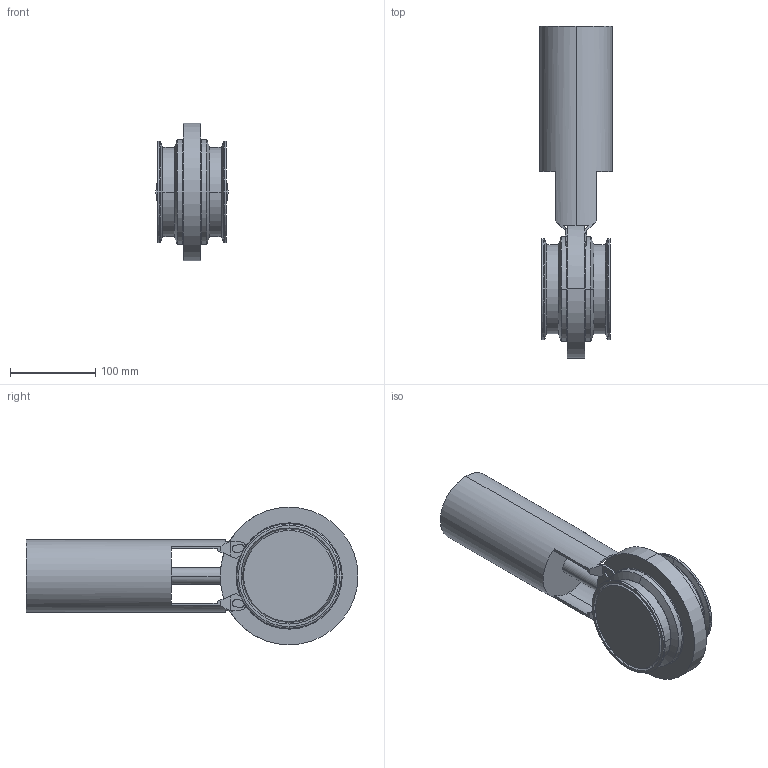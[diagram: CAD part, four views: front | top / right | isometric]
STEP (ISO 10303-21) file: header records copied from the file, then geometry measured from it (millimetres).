
FILE_DESCRIPTION(('OneSpaceDesigner STEP Export'),'2;1');
FILE_NAME('SV1-4T-FZ-12CL.stp','2011-06-06T11:03:41',(''),(''),'OneSpace Designer STEP processor for AP214 (Solid Model)','OneSpace Modeling 15.00B 25-Jun-2007 (C) CoCreate Software GmbH','');
FILE_SCHEMA(('AUTOMOTIVE_DESIGN { 1 0 10303 214 1 1 1 1 }'));
Length unit declared in the file: millimetre
Products named in the file (2): SV1-4zoll-FZ-12CL
Assembly tree (1 placements, depth 2):
  SV1-4zoll-FZ-12CL
    SV1-4zoll-FZ-12CL
Bounding box: 85 x 390.29 x 162 mm (x, y, z)
Volume: 1976204.7 mm3; surface area: 176087 mm2
Topology: 1 solids, 2 shells, 164 faces, 452 edges, 286 vertices
Faces by surface type: plane 67, cylinder 53, torus 24, cone 20
Entity records: 6258 total; most frequent: CARTESIAN_POINT 2543, ORIENTED_EDGE 904, DIRECTION 650, EDGE_CURVE 452, VERTEX_POINT 286, AXIS2_PLACEMENT_3D 220, VECTOR 210, LINE 210
